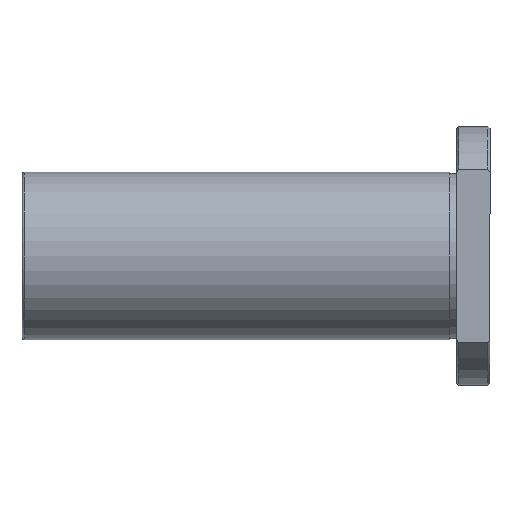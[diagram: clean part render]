
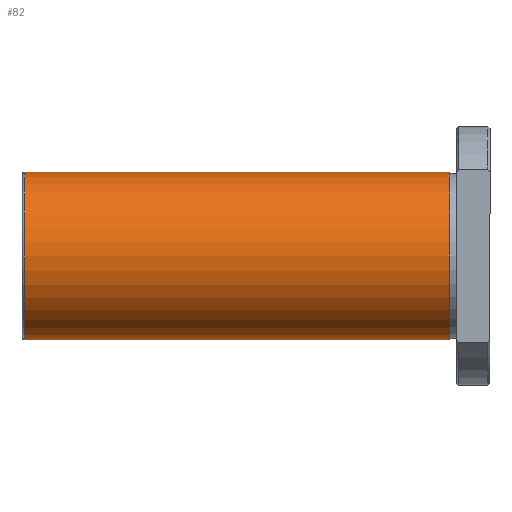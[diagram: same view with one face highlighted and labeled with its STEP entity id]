
A CAD part, front view. The second image highlights one B-rep face of the part: STEP entity #82.
In plain terms, the highlighted cylindrical face has radius 20 mm (diameter 40 mm), a full revolution.
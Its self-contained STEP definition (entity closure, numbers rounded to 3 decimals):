
#82=ADVANCED_FACE('',(#124,#125),#126,.T.);
#124=FACE_OUTER_BOUND('',#208,.T.);
#125=FACE_OUTER_BOUND('',#209,.T.);
#126=CYLINDRICAL_SURFACE('',#210,20.0);
#208=EDGE_LOOP('',(#328));
#209=EDGE_LOOP('',(#329));
#210=AXIS2_PLACEMENT_3D('',#330,#331,#332);
#328=ORIENTED_EDGE('',*,*,#478,.T.);
#329=ORIENTED_EDGE('',*,*,#479,.F.);
#330=CARTESIAN_POINT('',(-34.0,0.,0.));
#331=DIRECTION('',(-1.0,-0.0,0.));
#332=DIRECTION('',(0.0,1.0,0.0));
#478=EDGE_CURVE('',#548,#548,#549,.T.);
#479=EDGE_CURVE('',#550,#550,#551,.T.);
#548=VERTEX_POINT('',#661);
#549=CIRCLE('',#662,20.0);
#550=VERTEX_POINT('',#663);
#551=CIRCLE('',#664,20.0);
#661=CARTESIAN_POINT('',(-9.6,20.0,0.));
#662=AXIS2_PLACEMENT_3D('',#752,#753,#754);
#663=CARTESIAN_POINT('',(-111.4,20.0,0.));
#664=AXIS2_PLACEMENT_3D('',#755,#756,#757);
#752=CARTESIAN_POINT('',(-9.6,0.,0.));
#753=DIRECTION('',(-1.0,0.0,0.));
#754=DIRECTION('',(0.0,1.0,0.0));
#755=CARTESIAN_POINT('',(-111.4,0.,0.));
#756=DIRECTION('',(-1.0,0.0,0.));
#757=DIRECTION('',(0.0,1.0,0.0));
